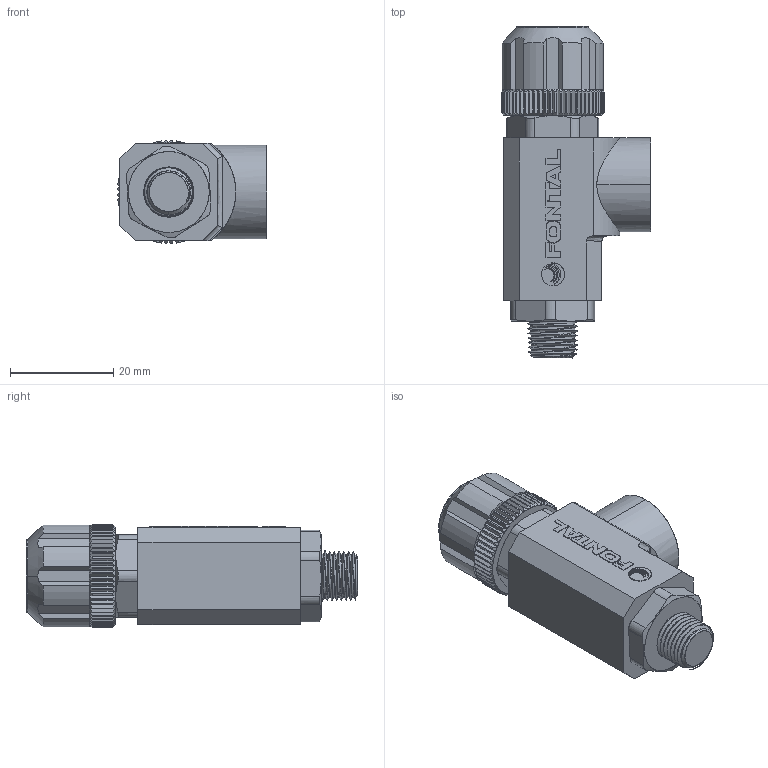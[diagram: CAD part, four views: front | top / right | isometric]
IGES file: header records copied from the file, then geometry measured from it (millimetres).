
Start section: SolidWorks IGES file using analytic representation for surfaces
Global section: file name: D:\Custom\3D繪製\Z-H\06\SPE-06-1.IGS,1; native system: 5HSolidWorks 2014; preprocessor: SolidWorks 2014; author: Chieh_Lu; date: 160115.041543; units: millimetre
Bounding box: 28.99 x 64.38 x 19.98 mm (x, y, z)
Surface area: 7976.5 mm2 (no closed solid volume)
Topology: 0 solids, 0 shells, 462 faces, 3921 edges, 3918 vertices
Faces by surface type: bspline 260, revolution 202
